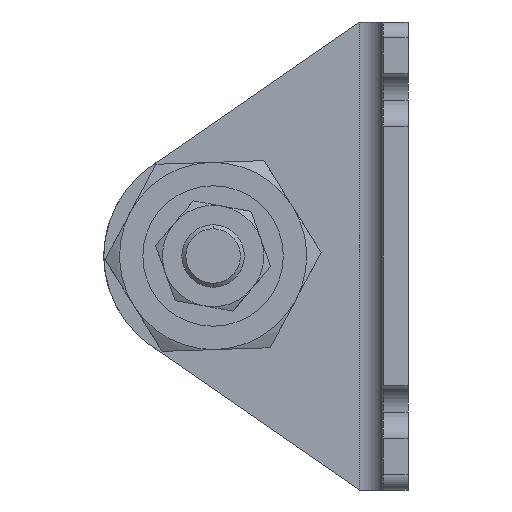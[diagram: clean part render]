
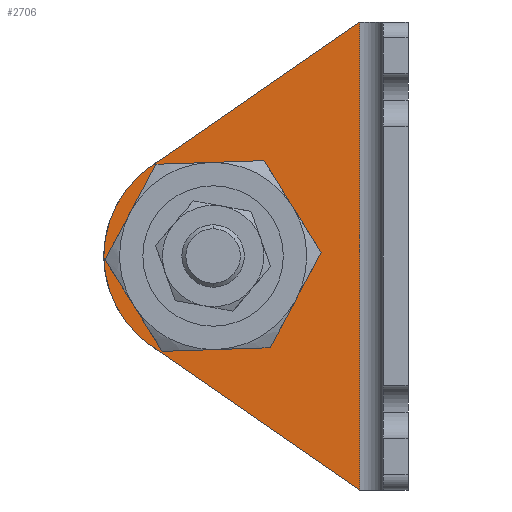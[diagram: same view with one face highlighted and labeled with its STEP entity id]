
A CAD part, left-side view. The second image highlights one B-rep face of the part: STEP entity #2706.
In plain terms, the highlighted planar face has unit normal (-1, 0, 0) as drawn and (1, 0, 0) by its records, which use the part's own axes.
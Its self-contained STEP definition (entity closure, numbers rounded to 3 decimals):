
#2 = CARTESIAN_POINT ( 'NONE',  ( 3.2, 25., -30. ) ) ;
#117 = AXIS2_PLACEMENT_3D ( 'NONE', #445, #3692, #2850 ) ;
#222 = CARTESIAN_POINT ( 'NONE',  ( 3.2, 6.2, -60. ) ) ;
#226 = VERTEX_POINT ( 'NONE', #1802 ) ;
#247 = ORIENTED_EDGE ( 'NONE', *, *, #769, .T. ) ;
#286 = DIRECTION ( 'NONE',  ( 0., 1., 0. ) ) ;
#296 = VERTEX_POINT ( 'NONE', #3915 ) ;
#345 = CARTESIAN_POINT ( 'NONE',  ( 3.2, 25., -30. ) ) ;
#417 = DIRECTION ( 'NONE',  ( 0., 0., -1. ) ) ;
#440 = AXIS2_PLACEMENT_3D ( 'NONE', #1028, #2714, #4191 ) ;
#445 = CARTESIAN_POINT ( 'NONE',  ( 3.2, 25., -30. ) ) ;
#486 = CIRCLE ( 'NONE', #756, 9.5 ) ;
#692 = DIRECTION ( 'NONE',  ( 1., 0., 0. ) ) ;
#756 = AXIS2_PLACEMENT_3D ( 'NONE', #2, #4103, #1937 ) ;
#767 = DIRECTION ( 'NONE',  ( 1., 0., 0. ) ) ;
#769 = EDGE_CURVE ( 'NONE', #1222, #3264, #1810, .T. ) ;
#844 = FACE_OUTER_BOUND ( 'NONE', #3065, .T. ) ;
#901 = DIRECTION ( 'NONE',  ( 0., 0.823, -0.568 ) ) ;
#951 = CARTESIAN_POINT ( 'NONE',  ( 3.2, 34.5, -30. ) ) ;
#1028 = CARTESIAN_POINT ( 'NONE',  ( 3.2, 25., -30. ) ) ;
#1046 = DIRECTION ( 'NONE',  ( 0., 1., 0. ) ) ;
#1222 = VERTEX_POINT ( 'NONE', #222 ) ;
#1446 = CIRCLE ( 'NONE', #440, 9.5 ) ;
#1560 = CARTESIAN_POINT ( 'NONE',  ( 3.2, 32.956, -41.519 ) ) ;
#1679 = EDGE_CURVE ( 'NONE', #226, #3543, #3560, .T. ) ;
#1802 = CARTESIAN_POINT ( 'NONE',  ( 3.2, 39., -30. ) ) ;
#1810 = LINE ( 'NONE', #2090, #3628 ) ;
#1815 = ORIENTED_EDGE ( 'NONE', *, *, #3030, .F. ) ;
#1937 = DIRECTION ( 'NONE',  ( 0., 1., 0. ) ) ;
#2004 = EDGE_CURVE ( 'NONE', #3264, #226, #3962, .T. ) ;
#2090 = CARTESIAN_POINT ( 'NONE',  ( 3.2, 4.169, -61.403 ) ) ;
#2202 = CARTESIAN_POINT ( 'NONE',  ( 3.2, 3.2, -60. ) ) ;
#2209 = CARTESIAN_POINT ( 'NONE',  ( 3.2, 32.956, -18.481 ) ) ;
#2223 = DIRECTION ( 'NONE',  ( 0., 0.823, 0.568 ) ) ;
#2225 = EDGE_LOOP ( 'NONE', ( #3759, #1815 ) ) ;
#2264 = LINE ( 'NONE', #3880, #2392 ) ;
#2315 = LINE ( 'NONE', #3571, #4268 ) ;
#2392 = VECTOR ( 'NONE', #417, 1000. ) ;
#2467 = AXIS2_PLACEMENT_3D ( 'NONE', #2202, #692, #286 ) ;
#2515 = EDGE_CURVE ( 'NONE', #296, #3543, #2315, .T. ) ;
#2556 = VERTEX_POINT ( 'NONE', #3083 ) ;
#2657 = AXIS2_PLACEMENT_3D ( 'NONE', #345, #767, #1046 ) ;
#2706 = ADVANCED_FACE ( 'NONE', ( #3039, #844 ), #3172, .T. ) ;
#2714 = DIRECTION ( 'NONE',  ( 1., 0., 0. ) ) ;
#2850 = DIRECTION ( 'NONE',  ( 0., 1., 0. ) ) ;
#2854 = ORIENTED_EDGE ( 'NONE', *, *, #2515, .F. ) ;
#3030 = EDGE_CURVE ( 'NONE', #2556, #3614, #1446, .T. ) ;
#3039 = FACE_BOUND ( 'NONE', #2225, .T. ) ;
#3065 = EDGE_LOOP ( 'NONE', ( #247, #4048, #3230, #2854, #3448 ) ) ;
#3083 = CARTESIAN_POINT ( 'NONE',  ( 3.2, 15.5, -30. ) ) ;
#3172 = PLANE ( 'NONE',  #2467 ) ;
#3230 = ORIENTED_EDGE ( 'NONE', *, *, #1679, .T. ) ;
#3264 = VERTEX_POINT ( 'NONE', #1560 ) ;
#3359 = EDGE_CURVE ( 'NONE', #296, #1222, #2264, .T. ) ;
#3448 = ORIENTED_EDGE ( 'NONE', *, *, #3359, .T. ) ;
#3543 = VERTEX_POINT ( 'NONE', #2209 ) ;
#3560 = CIRCLE ( 'NONE', #117, 14. ) ;
#3571 = CARTESIAN_POINT ( 'NONE',  ( 3.2, 32.226, -17.976 ) ) ;
#3614 = VERTEX_POINT ( 'NONE', #951 ) ;
#3628 = VECTOR ( 'NONE', #2223, 1000. ) ;
#3692 = DIRECTION ( 'NONE',  ( 1., 0., 0. ) ) ;
#3759 = ORIENTED_EDGE ( 'NONE', *, *, #4036, .F. ) ;
#3880 = CARTESIAN_POINT ( 'NONE',  ( 3.2, 6.2, -60. ) ) ;
#3915 = CARTESIAN_POINT ( 'NONE',  ( 3.2, 6.2, 0. ) ) ;
#3962 = CIRCLE ( 'NONE', #2657, 14. ) ;
#4036 = EDGE_CURVE ( 'NONE', #3614, #2556, #486, .T. ) ;
#4048 = ORIENTED_EDGE ( 'NONE', *, *, #2004, .T. ) ;
#4103 = DIRECTION ( 'NONE',  ( 1., 0., 0. ) ) ;
#4191 = DIRECTION ( 'NONE',  ( 0., 1., 0. ) ) ;
#4268 = VECTOR ( 'NONE', #901, 1000. ) ;
